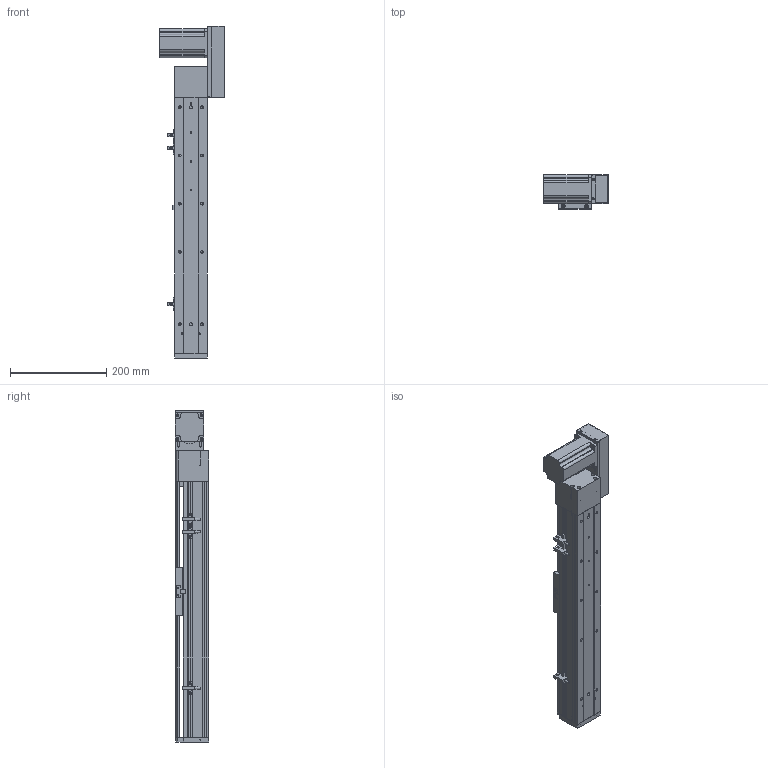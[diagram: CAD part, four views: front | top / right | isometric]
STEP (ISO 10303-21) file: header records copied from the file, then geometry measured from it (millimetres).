
FILE_DESCRIPTION (( 'STEP AP203' ), '1' );
FILE_NAME ('ML68-S350-CL.STEP', '2016-08-04T11:46:33', ( '' ), ( '' ), 'SwSTEP 2.0', 'SolidWorks 2014', '' );
FILE_SCHEMA (( 'CONFIG_CONTROL_DESIGN' ));
Length unit declared in the file: millimetre
Products named in the file (12): 換覜ん; 60換覜結え; ML68滅鳥啣盓傅輸媼; ML68-BR傷啣; QS68左右折电机板罩子; ML68菁釱^ML68-S350-CL; ML68傷啣; ML68-S350-CL; QS68酘衵殏萇儂啣; 三协电机MH201N2_預設; ML68雄赽釱; ML68奻裔^ML68-S350-CL
Assembly tree (13 placements, depth 2):
  ML68-S350-CL
    ML68菁釱^ML68-S350-CL
    ML68奻裔^ML68-S350-CL
    60換覜結え
    ML68-BR傷啣
    換覜ん  x3
    ML68傷啣
    三协电机MH201N2_預設
    ML68雄赽釱
    QS68酘衵殏萇儂啣
    QS68左右折电机板罩子
    ML68滅鳥啣盓傅輸媼
Bounding box: 133.5 x 70.5 x 688.5 mm (x, y, z)
Volume: 1375773.2 mm3; surface area: 481193.5 mm2
Topology: 13 solids, 13 shells, 867 faces, 2372 edges, 1507 vertices
Faces by surface type: cylinder 392, plane 383, cone 92
Entity records: 27320 total; most frequent: CARTESIAN_POINT 5090, DIRECTION 4490, ORIENTED_EDGE 4252, EDGE_CURVE 2126, AXIS2_PLACEMENT_3D 1615, VERTEX_POINT 1395, LINE 1260, VECTOR 1260
